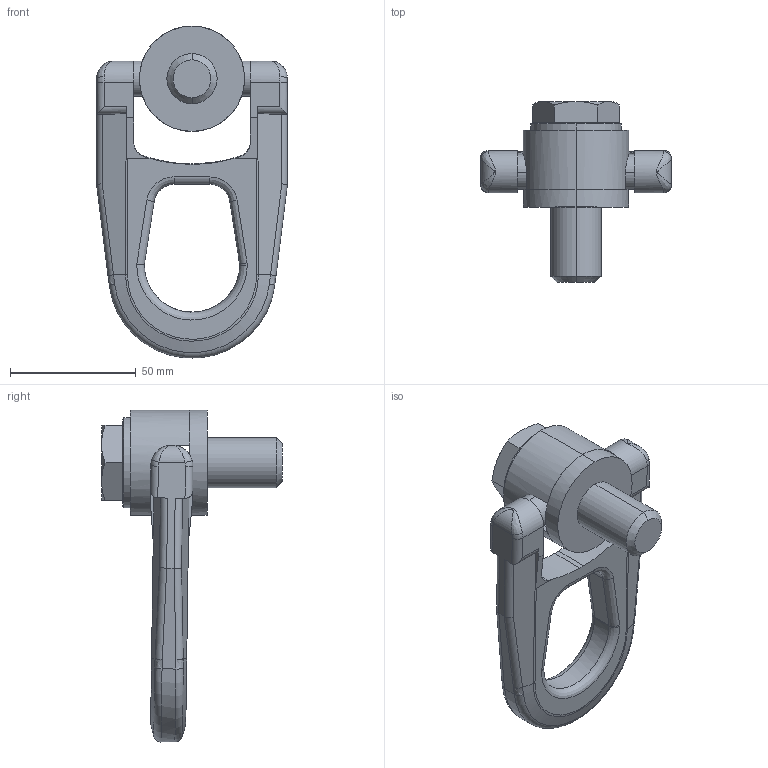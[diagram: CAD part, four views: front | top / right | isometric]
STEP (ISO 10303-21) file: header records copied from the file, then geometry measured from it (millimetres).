
FILE_DESCRIPTION (( 'STEP AP203' ), '1' );
FILE_NAME ('63200.W0020.step', '2013-12-13T15:23:08', ( 'User' ), ( '' ), 'SwSTEP 2.0', 'SolidWorks 2009', '' );
FILE_SCHEMA (( 'CONFIG_CONTROL_DESIGN' ));
Length unit declared in the file: millimetre
Products named in the file (3): Part1_63200.W0020; Part3; 63200.W0020
Assembly tree (2 placements, depth 2):
  63200.W0020
    Part3
    Part1_63200.W0020
Bounding box: 76 x 72 x 132.2 mm (x, y, z)
Volume: 116134.9 mm3; surface area: 27954.7 mm2
Topology: 2 solids, 2 shells, 138 faces, 344 edges, 211 vertices
Faces by surface type: plane 47, cylinder 45, bspline 26, cone 13, torus 7
Entity records: 6802 total; most frequent: CARTESIAN_POINT 3466, ORIENTED_EDGE 688, DIRECTION 578, EDGE_CURVE 344, AXIS2_PLACEMENT_3D 218, VERTEX_POINT 211, EDGE_LOOP 143, VECTOR 142
